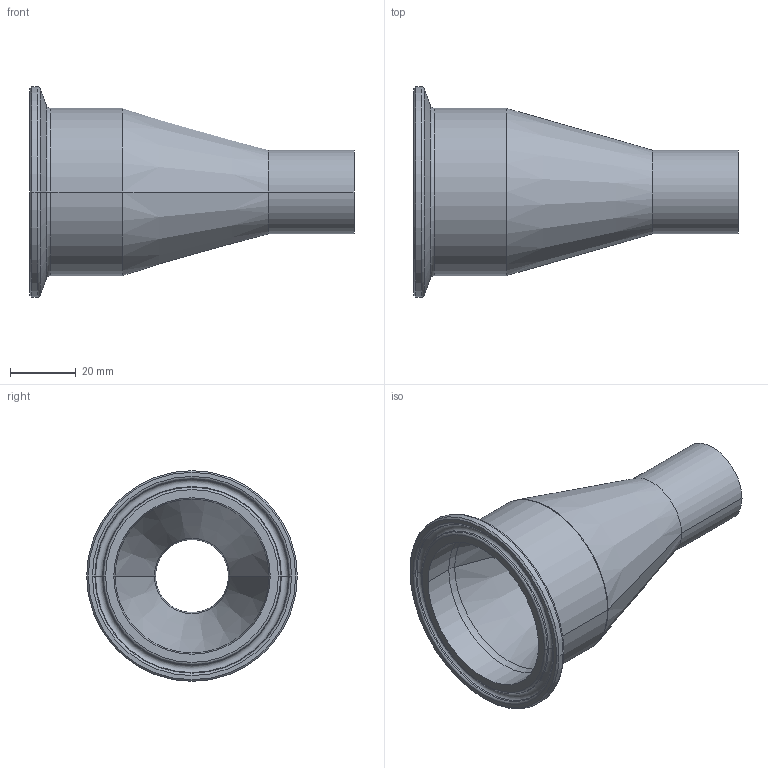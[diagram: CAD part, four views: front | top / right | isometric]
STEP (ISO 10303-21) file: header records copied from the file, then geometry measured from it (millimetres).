
FILE_DESCRIPTION (( 'STEP AP214' ), '1' );
FILE_NAME ('TE31SCW6L2.0x1.0-...STEP', '2016-05-29T11:26:52', ( 'eran' ), ( '' ), 'SwSTEP 2.0', 'SolidWorks 2016', '' );
FILE_SCHEMA (( 'AUTOMOTIVE_DESIGN' ));
Length unit declared in the file: millimetre
Products named in the file (1): TE31SCW6L2.0x1.0-..
Bounding box: 98.42 x 64 x 64 mm (x, y, z)
Volume: 53797.5 mm3; surface area: 24045.8 mm2
Topology: 1 solids, 1 shells, 41 faces, 82 edges, 44 vertices
Faces by surface type: torus 16, cone 12, cylinder 10, plane 3
Entity records: 1098 total; most frequent: DIRECTION 226, CARTESIAN_POINT 168, ORIENTED_EDGE 164, AXIS2_PLACEMENT_3D 102, EDGE_CURVE 82, CIRCLE 60, VERTEX_POINT 44, EDGE_LOOP 44
